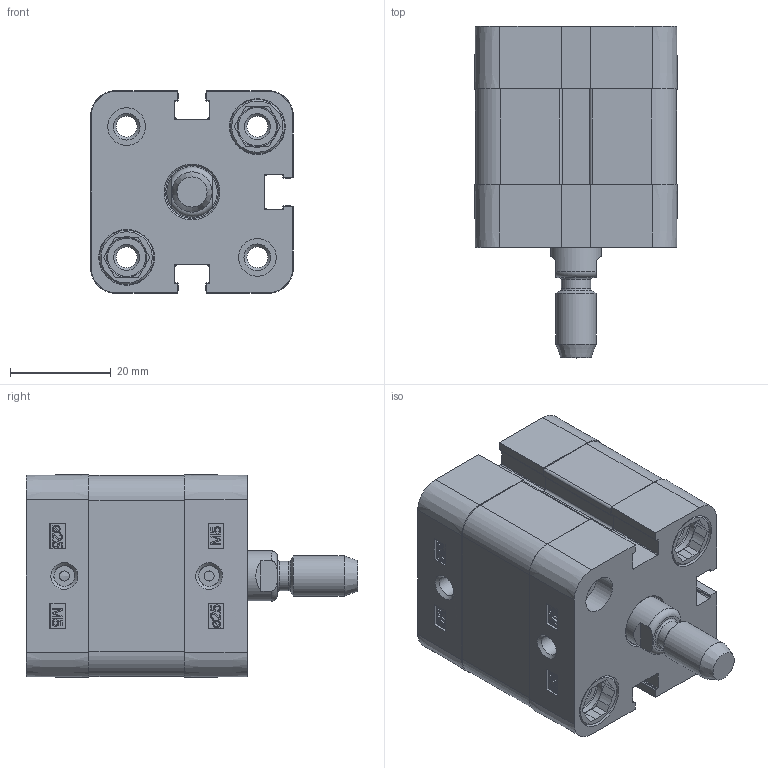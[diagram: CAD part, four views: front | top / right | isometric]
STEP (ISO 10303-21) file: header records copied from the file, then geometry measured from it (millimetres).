
FILE_DESCRIPTION((''),'2;1');
FILE_NAME('T:\Archivio Inventor\- CATALOGHI 2012\SERIE P - NUOVA\PDM\PDM025\PDM025.---.GS.M\PDM025.005.GS.M.stp','2013-01-31T08:04:22',('Administrator'),(''),'Autodesk Inventor 2012','Autodesk Inventor 2012','');
FILE_SCHEMA(('CONFIG_CONTROL_DESIGN'));
Length unit declared in the file: millimetre
Products named in the file (1): PDM025.005.GS.M
Bounding box: 40.3 x 66 x 40.3 mm (x, y, z)
Volume: 47305.9 mm3; surface area: 22798.5 mm2
Topology: 1 solids, 3 shells, 596 faces, 1552 edges, 1017 vertices
Faces by surface type: plane 312, cylinder 130, bspline 92, cone 50, torus 12
Full cylindrical faces by diameter (mm): 2 x2, 4.134 x10, 5.8 x1, 7.5 x4, 7.55 x2, 8 x9, 9 x1, 10 x1, 10.5 x1, 10.8 x4, 11.1 x4, 25 x1, 27.3 x1, 27.5 x1
Entity records: 18782 total; most frequent: CARTESIAN_POINT 4306, ORIENTED_EDGE 2888, DIRECTION 2606, EDGE_CURVE 1444, VERTEX_POINT 1002, VECTOR 898, LINE 898, AXIS2_PLACEMENT_3D 854
